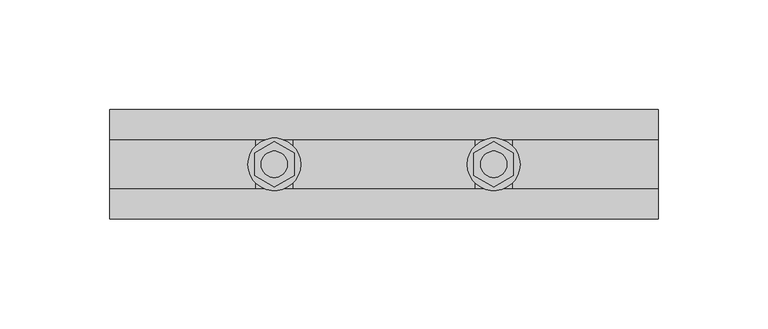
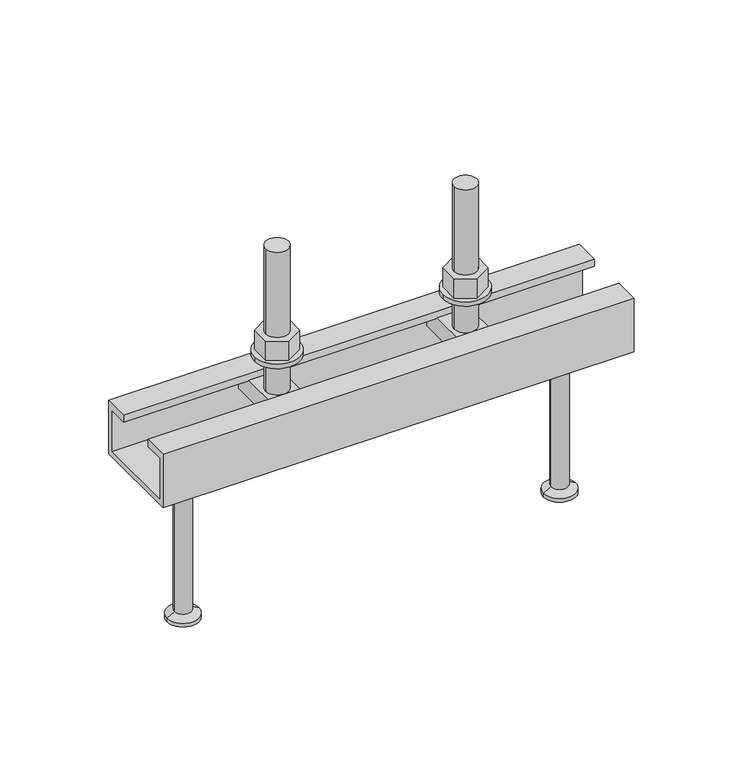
"""IFC4 building model written with IfcOpenShell, lengths in millimetres: fastener geometry, JTA-W JORDAHL® AnchorChannels : JTA-W L=250 mm."""

from ifc_helpers import new_model, si_unit, point, frame, frame_2d, origin, place, context, project, spatial, polyline, circle_curve, trimmed, segment, composite_curve, outline, extrude, source, transform, mapped, element, save
from ifc_brep_helpers import plane_surface, cylinder_surface, revolved_surface, advanced_brep


def fastener_60a0e345(model_context):
    return source(origin(), model_context, "Body", "SolidModel", [
        extrude(outline(polyline([(175.0, -10.3923048), (166.0, -5.1961524), (166.0, 5.1961524), (175.0, 10.3923048), (184.0, 5.1961524), (184.0, -5.1961524), (175.0, -10.3923048)]), holes=[composite_curve([segment(trimmed(circle_curve(frame_2d((175.0, 0.0)), 6.0), [point((169.0, 0.0))], [point((181.0, 0.0))], True, "CARTESIAN"), True, "CONTINUOUS"), segment(trimmed(circle_curve(frame_2d((175.0, 0.0)), 6.0), [point((181.0, 0.0))], [point((169.0, 0.0))], True, "CARTESIAN"), True, "CONTINUOUS")], self_intersect=False)]), frame((0.0, 0.0, 17.5), z_axis=(0.0, 0.0, 1.0), x_axis=(1.0, 0.0, 0.0)), (0.0, 0.0, 1.0), 10.8),
        extrude(outline(composite_curve([segment(trimmed(circle_curve(frame_2d((175.0, 0.0)), 12.0), [point((163.0, 0.0))], [point((187.0, 0.0))], False, "CARTESIAN"), True, "CONTINUOUS"), segment(trimmed(circle_curve(frame_2d((175.0, 0.0)), 12.0), [point((187.0, 0.0))], [point((163.0, 0.0))], False, "CARTESIAN"), True, "CONTINUOUS")], self_intersect=False), holes=[composite_curve([segment(trimmed(circle_curve(frame_2d((175.0, 0.0)), 6.5), [point((168.5, 0.0))], [point((181.5, 0.0))], True, "CARTESIAN"), True, "CONTINUOUS"), segment(trimmed(circle_curve(frame_2d((175.0, 0.0)), 6.5), [point((181.5, 0.0))], [point((168.5, 0.0))], True, "CARTESIAN"), True, "CONTINUOUS")], self_intersect=False)]), frame((0.0, 0.0, 15.0), z_axis=(0.0, 0.0, 1.0), x_axis=(1.0, 0.0, 0.0)), (0.0, 0.0, 1.0), 2.5),
        extrude(outline(polyline([(75.0, -10.3923048), (66.0, -5.1961524), (66.0, 5.1961524), (75.0, 10.3923048), (84.0, 5.1961524), (84.0, -5.1961524), (75.0, -10.3923048)]), holes=[composite_curve([segment(trimmed(circle_curve(frame_2d((75.0, 0.0)), 6.0), [point((69.0, 0.0))], [point((81.0, 0.0))], True, "CARTESIAN"), True, "CONTINUOUS"), segment(trimmed(circle_curve(frame_2d((75.0, 0.0)), 6.0), [point((81.0, 0.0))], [point((69.0, 0.0))], True, "CARTESIAN"), True, "CONTINUOUS")], self_intersect=False)]), frame((0.0, 0.0, 17.5), z_axis=(0.0, 0.0, 1.0), x_axis=(1.0, 0.0, 0.0)), (0.0, 0.0, 1.0), 10.8),
        extrude(outline(composite_curve([segment(trimmed(circle_curve(frame_2d((75.0, 0.0)), 12.0), [point((63.0, 0.0))], [point((87.0, 0.0))], False, "CARTESIAN"), True, "CONTINUOUS"), segment(trimmed(circle_curve(frame_2d((75.0, 0.0)), 12.0), [point((87.0, 0.0))], [point((63.0, 0.0))], False, "CARTESIAN"), True, "CONTINUOUS")], self_intersect=False), holes=[composite_curve([segment(trimmed(circle_curve(frame_2d((75.0, 0.0)), 6.5), [point((68.5, 0.0))], [point((81.5, 0.0))], True, "CARTESIAN"), True, "CONTINUOUS"), segment(trimmed(circle_curve(frame_2d((75.0, 0.0)), 6.5), [point((81.5, 0.0))], [point((68.5, 0.0))], True, "CARTESIAN"), True, "CONTINUOUS")], self_intersect=False)]), frame((0.0, 0.0, 15.0), z_axis=(0.0, 0.0, 1.0), x_axis=(1.0, 0.0, 0.0)), (0.0, 0.0, 1.0), 2.5),
        advanced_brep(
        [(183.5, -20.7, -4.0), (183.5, -20.7, -14.0), (183.5, 20.7, -14.0), (183.5, 20.7, -4.0), (166.5, -20.7, -4.0), (166.5, 20.7, -4.0), (166.5, 20.7, -14.0), (166.5, -20.7, -14.0), (181.0, 0.0, -4.0), (169.0, 0.0, -4.0), (169.0, 0.0, 76.0), (181.0, 0.0, 76.0)],
        [
            (0, 1),
            (1, 2),
            (2, 3),
            (3, 0),
            (4, 5),
            (5, 6),
            (6, 7),
            (7, 4),
            (3, 5),
            (4, 0),
            (8, 9, circle_curve(frame((175.0, 0.0, -4.0), z_axis=(0.0, 0.0, -1.0), x_axis=(1.0, 0.0, 0.0)), 6.0)),
            (9, 8, circle_curve(frame((175.0, 0.0, -4.0), z_axis=(0.0, 0.0, -1.0), x_axis=(1.0, 0.0, 0.0)), 6.0)),
            (2, 6),
            (1, 7),
            (10, 11, circle_curve(frame((175.0, 0.0, 76.0), z_axis=(0.0, 0.0, 1.0), x_axis=(1.0, 0.0, 0.0)), 6.0)),
            (11, 10, circle_curve(frame((175.0, 0.0, 76.0), z_axis=(0.0, 0.0, 1.0), x_axis=(1.0, 0.0, 0.0)), 6.0)),
            (11, 8),
            (9, 10),
        ],
        [
            plane_surface(frame((183.5, 20.7, -4.0), z_axis=(1.0, 0.0, 0.0), x_axis=(0.0, 1.0, 0.0))),
            plane_surface(frame((166.5, 20.7, -4.0), z_axis=(-1.0, 0.0, 0.0), x_axis=(0.0, -1.0, 0.0))),
            plane_surface(frame((183.5, -20.7, -4.0), z_axis=(0.0, 0.0, 1.0), x_axis=(-1.0, 0.0, 0.0))),
            plane_surface(frame((183.5, 20.7, -4.0), z_axis=(0.0, 1.0, 0.0), x_axis=(-1.0, 0.0, 0.0))),
            plane_surface(frame((183.5, 20.7, -14.0), z_axis=(0.0, 0.0, -1.0), x_axis=(-1.0, 0.0, 0.0))),
            plane_surface(frame((183.5, -20.7, -14.0), z_axis=(0.0, -1.0, 0.0), x_axis=(-1.0, 0.0, 0.0))),
            plane_surface(frame((181.0, 0.0, 76.0), z_axis=(0.0, 0.0, 1.0), x_axis=(0.0, -1.0, 0.0))),
            cylinder_surface(frame((175.0, 0.0, -4.0), z_axis=(0.0, 0.0, 1.0), x_axis=(1.0, 0.0, 0.0)), 6.0),
        ],
        [
            (0, [[1, 2, 3, 4]]),
            (1, [[5, 6, 7, 8]]),
            (2, [[9, -5, 10, -4], [11, 12]]),
            (3, [[13, -6, -9, -3]]),
            (4, [[14, -7, -13, -2]]),
            (5, [[-10, -8, -14, -1]]),
            (6, [[15, 16]]),
            (7, [[17, -12, 18, -16]]),
            (7, [[-18, -11, -17, -15]]),
        ],
    ),
        advanced_brep(
        [(83.5, -20.7, -4.0), (83.5, -20.7, -14.0), (83.5, 20.7, -14.0), (83.5, 20.7, -4.0), (66.5, -20.7, -4.0), (66.5, 20.7, -4.0), (66.5, 20.7, -14.0), (66.5, -20.7, -14.0), (81.0, 0.0, -4.0), (69.0, 0.0, -4.0), (69.0, 0.0, 76.0), (81.0, 0.0, 76.0)],
        [
            (0, 1),
            (1, 2),
            (2, 3),
            (3, 0),
            (4, 5),
            (5, 6),
            (6, 7),
            (7, 4),
            (3, 5),
            (4, 0),
            (8, 9, circle_curve(frame((75.0, 0.0, -4.0), z_axis=(0.0, 0.0, -1.0), x_axis=(1.0, 0.0, 0.0)), 6.0)),
            (9, 8, circle_curve(frame((75.0, 0.0, -4.0), z_axis=(0.0, 0.0, -1.0), x_axis=(1.0, 0.0, 0.0)), 6.0)),
            (2, 6),
            (1, 7),
            (10, 11, circle_curve(frame((75.0, 0.0, 76.0), z_axis=(0.0, 0.0, 1.0), x_axis=(1.0, 0.0, 0.0)), 6.0)),
            (11, 10, circle_curve(frame((75.0, 0.0, 76.0), z_axis=(0.0, 0.0, 1.0), x_axis=(1.0, 0.0, 0.0)), 6.0)),
            (11, 8),
            (9, 10),
        ],
        [
            plane_surface(frame((83.5, 20.7, -4.0), z_axis=(1.0, 0.0, 0.0), x_axis=(0.0, 1.0, 0.0))),
            plane_surface(frame((66.5, 20.7, -4.0), z_axis=(-1.0, 0.0, 0.0), x_axis=(0.0, -1.0, 0.0))),
            plane_surface(frame((83.5, -20.7, -4.0), z_axis=(0.0, 0.0, 1.0), x_axis=(-1.0, 0.0, 0.0))),
            plane_surface(frame((83.5, 20.7, -4.0), z_axis=(0.0, 1.0, 0.0), x_axis=(-1.0, 0.0, 0.0))),
            plane_surface(frame((83.5, 20.7, -14.0), z_axis=(0.0, 0.0, -1.0), x_axis=(-1.0, 0.0, 0.0))),
            plane_surface(frame((83.5, -20.7, -14.0), z_axis=(0.0, -1.0, 0.0), x_axis=(-1.0, 0.0, 0.0))),
            plane_surface(frame((81.0, 0.0, 76.0), z_axis=(0.0, 0.0, 1.0), x_axis=(0.0, -1.0, 0.0))),
            cylinder_surface(frame((75.0, 0.0, -4.0), z_axis=(0.0, 0.0, 1.0), x_axis=(1.0, 0.0, 0.0)), 6.0),
        ],
        [
            (0, [[1, 2, 3, 4]]),
            (1, [[5, 6, 7, 8]]),
            (2, [[9, -5, 10, -4], [11, 12]]),
            (3, [[13, -6, -9, -3]]),
            (4, [[14, -7, -13, -2]]),
            (5, [[-10, -8, -14, -1]]),
            (6, [[15, 16]]),
            (7, [[17, -12, 18, -16]]),
            (7, [[-18, -11, -17, -15]]),
        ],
    ),
        advanced_brep(
        [(225.0, 0.0, -30.0), (211.5, 0.0, -30.0), (238.5, 0.0, -30.0), (216.5, 0.0, -115.0), (225.0, 0.0, -115.0), (233.5, 0.0, -115.0), (216.5, 0.0, -113.0), (233.5, 0.0, -113.0), (220.5, 0.0, -110.6905989), (229.5, 0.0, -110.6905989), (220.5, 0.0, -32.5), (229.5, 0.0, -32.5)],
        [
            (0, 1),
            (1, 2, circle_curve(frame((225.0, 0.0, -30.0), z_axis=(0.0, 0.0, 1.0), x_axis=(1.0, 0.0, 0.0)), 13.5)),
            (2, 0),
            (2, 1, circle_curve(frame((225.0, 0.0, -30.0), z_axis=(0.0, 0.0, 1.0), x_axis=(1.0, 0.0, 0.0)), 13.5)),
            (3, 4),
            (4, 5),
            (5, 3, circle_curve(frame((225.0, 0.0, -115.0), z_axis=(0.0, 0.0, -1.0), x_axis=(1.0, 0.0, 0.0)), 8.5)),
            (3, 5, circle_curve(frame((225.0, 0.0, -115.0), z_axis=(0.0, 0.0, -1.0), x_axis=(1.0, 0.0, 0.0)), 8.5)),
            (6, 3),
            (5, 7),
            (7, 6, circle_curve(frame((225.0, 0.0, -113.0), z_axis=(0.0, 0.0, -1.0), x_axis=(1.0, 0.0, 0.0)), 8.5)),
            (6, 7, circle_curve(frame((225.0, 0.0, -113.0), z_axis=(0.0, 0.0, -1.0), x_axis=(1.0, 0.0, 0.0)), 8.5)),
            (8, 6),
            (7, 9),
            (9, 8, circle_curve(frame((225.0, 0.0, -110.6905989), z_axis=(0.0, 0.0, -1.0), x_axis=(1.0, 0.0, 0.0)), 4.5)),
            (8, 9, circle_curve(frame((225.0, 0.0, -110.6905989), z_axis=(0.0, 0.0, -1.0), x_axis=(1.0, 0.0, 0.0)), 4.5)),
            (10, 8),
            (9, 11),
            (11, 10, circle_curve(frame((225.0, 0.0, -32.5), z_axis=(0.0, 0.0, -1.0), x_axis=(1.0, 0.0, 0.0)), 4.5)),
            (10, 11, circle_curve(frame((225.0, 0.0, -32.5), z_axis=(0.0, 0.0, -1.0), x_axis=(1.0, 0.0, 0.0)), 4.5)),
            (1, 10),
            (11, 2),
        ],
        [
            plane_surface(frame((225.0, 0.0, -30.0), z_axis=(0.0, 0.0, 1.0), x_axis=(1.0, 0.0, 0.0))),
            plane_surface(frame((225.0, 0.0, -115.0), z_axis=(0.0, 0.0, -1.0), x_axis=(1.0, 0.0, 0.0))),
            cylinder_surface(frame((225.0, 0.0, 2299.3150031), z_axis=(0.0, 0.0, 1.0), x_axis=(1.0, 0.0, 0.0)), 8.5),
            revolved_surface(polyline([(233.5, 0.0, -113.0), (229.5, 0.0, -110.6905989)]), (225.0, 0.0, 2299.3150031), (0.0, 0.0, 1.0)),
            cylinder_surface(frame((225.0, 0.0, 2299.3150031), z_axis=(0.0, 0.0, 1.0), x_axis=(1.0, 0.0, 0.0)), 4.5),
            revolved_surface(polyline([(229.5, 0.0, -32.5), (238.5, 0.0, -30.0)]), (225.0, 0.0, 2299.3150031), (0.0, 0.0, 1.0)),
        ],
        [
            (0, [[1, 2, 3]]),
            (0, [[-3, 4, -1]]),
            (1, [[5, 6, 7]]),
            (1, [[-6, -5, 8]]),
            (2, [[9, -7, 10, 11]]),
            (2, [[-10, -8, -9, 12]]),
            (3, [[13, -11, 14, 15]]),
            (3, [[-14, -12, -13, 16]]),
            (4, [[17, -15, 18, 19]]),
            (4, [[-18, -16, -17, 20]]),
            (5, [[21, -19, 22, -2]]),
            (5, [[-22, -20, -21, -4]]),
        ],
    ),
        advanced_brep(
        [(25.0, 0.0, -30.0), (11.5, 0.0, -30.0), (38.5, 0.0, -30.0), (16.5, 0.0, -115.0), (25.0, 0.0, -115.0), (33.5, 0.0, -115.0), (16.5, 0.0, -113.0), (33.5, 0.0, -113.0), (20.5, 0.0, -110.6905989), (29.5, 0.0, -110.6905989), (20.5, 0.0, -32.5), (29.5, 0.0, -32.5)],
        [
            (0, 1),
            (1, 2, circle_curve(frame((25.0, 0.0, -30.0), z_axis=(0.0, 0.0, 1.0), x_axis=(1.0, 0.0, 0.0)), 13.5)),
            (2, 0),
            (2, 1, circle_curve(frame((25.0, 0.0, -30.0), z_axis=(0.0, 0.0, 1.0), x_axis=(1.0, 0.0, 0.0)), 13.5)),
            (3, 4),
            (4, 5),
            (5, 3, circle_curve(frame((25.0, 0.0, -115.0), z_axis=(0.0, 0.0, -1.0), x_axis=(1.0, 0.0, 0.0)), 8.5)),
            (3, 5, circle_curve(frame((25.0, 0.0, -115.0), z_axis=(0.0, 0.0, -1.0), x_axis=(1.0, 0.0, 0.0)), 8.5)),
            (6, 3),
            (5, 7),
            (7, 6, circle_curve(frame((25.0, 0.0, -113.0), z_axis=(0.0, 0.0, -1.0), x_axis=(1.0, 0.0, 0.0)), 8.5)),
            (6, 7, circle_curve(frame((25.0, 0.0, -113.0), z_axis=(0.0, 0.0, -1.0), x_axis=(1.0, 0.0, 0.0)), 8.5)),
            (8, 6),
            (7, 9),
            (9, 8, circle_curve(frame((25.0, 0.0, -110.6905989), z_axis=(0.0, 0.0, -1.0), x_axis=(1.0, 0.0, 0.0)), 4.5)),
            (8, 9, circle_curve(frame((25.0, 0.0, -110.6905989), z_axis=(0.0, 0.0, -1.0), x_axis=(1.0, 0.0, 0.0)), 4.5)),
            (10, 8),
            (9, 11),
            (11, 10, circle_curve(frame((25.0, 0.0, -32.5), z_axis=(0.0, 0.0, -1.0), x_axis=(1.0, 0.0, 0.0)), 4.5)),
            (10, 11, circle_curve(frame((25.0, 0.0, -32.5), z_axis=(0.0, 0.0, -1.0), x_axis=(1.0, 0.0, 0.0)), 4.5)),
            (1, 10),
            (11, 2),
        ],
        [
            plane_surface(frame((25.0, 0.0, -30.0), z_axis=(0.0, 0.0, 1.0), x_axis=(1.0, 0.0, 0.0))),
            plane_surface(frame((25.0, 0.0, -115.0), z_axis=(0.0, 0.0, -1.0), x_axis=(1.0, 0.0, 0.0))),
            cylinder_surface(frame((25.0, 0.0, 2299.3150031), z_axis=(0.0, 0.0, 1.0), x_axis=(1.0, 0.0, 0.0)), 8.5),
            revolved_surface(polyline([(33.5, 0.0, -113.0), (29.5, 0.0, -110.6905989)]), (25.0, 0.0, 2299.3150031), (0.0, 0.0, 1.0)),
            cylinder_surface(frame((25.0, 0.0, 2299.3150031), z_axis=(0.0, 0.0, 1.0), x_axis=(1.0, 0.0, 0.0)), 4.5),
            revolved_surface(polyline([(29.5, 0.0, -32.5), (38.5, 0.0, -30.0)]), (25.0, 0.0, 2299.3150031), (0.0, 0.0, 1.0)),
        ],
        [
            (0, [[1, 2, 3]]),
            (0, [[-3, 4, -1]]),
            (1, [[5, 6, 7]]),
            (1, [[-6, -5, 8]]),
            (2, [[9, -7, 10, 11]]),
            (2, [[-10, -8, -9, 12]]),
            (3, [[13, -11, 14, 15]]),
            (3, [[-14, -12, -13, 16]]),
            (4, [[17, -15, 18, 19]]),
            (4, [[-18, -16, -17, 20]]),
            (5, [[21, -19, 22, -2]]),
            (5, [[-22, -20, -21, -4]]),
        ],
    ),
        extrude(outline(polyline([(-25.0, 0.0), (-11.25, 0.0), (-11.25, -4.0), (-22.2, -4.0), (-22.2, -27.2), (22.2, -27.2), (22.2, -4.0), (11.25, -4.0), (11.25, 0.0), (25.0, 0.0), (25.0, -30.0), (-25.0, -30.0), (-25.0, 0.0)])), frame((0.0, 0.0, 0.0), z_axis=(1.0, 0.0, 0.0), x_axis=(0.0, 1.0, 0.0)), (0.0, 0.0, 1.0), 250.0),
    ])


if __name__ == "__main__":
    model = new_model("IFC4")
    model_context = context("Model", 3, world=origin())
    ifc_project = project(units=[si_unit("LENGTHUNIT", "METRE", prefix="MILLI")], contexts=[model_context])
    site = spatial("IfcSite", under=ifc_project)
    building = spatial("IfcBuilding", under=site)
    placement = place(None, origin())
    fastener_shape = fastener_60a0e345(model_context)
    element("IfcFastener", 1, ObjectType="JTA-W JORDAHL® AnchorChannels : JTA-W L=250 mm", at=placement, inside=building, context=model_context, shape_type="MappedRepresentation", body=[
        mapped(fastener_shape, transform((0.0, 0.0, 0.0), x_axis=(1.0, 0.0, 0.0), y_axis=(0.0, 1.0, 0.0), z_axis=(0.0, 0.0, 1.0))),
    ])
    save(model, "model.ifc")
